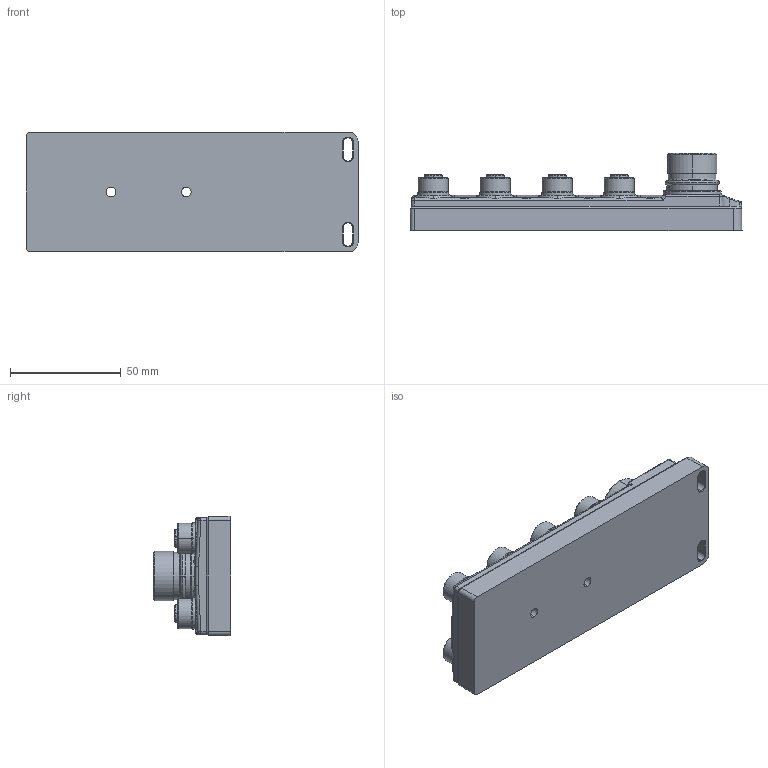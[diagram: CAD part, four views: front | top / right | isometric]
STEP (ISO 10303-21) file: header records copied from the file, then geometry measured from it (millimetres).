
FILE_DESCRIPTION (( 'STEP AP203' ), '1' );
FILE_NAME ('8MB12Z-CS-Top.step', '2017-07-13T19:47:25', ( '' ), ( '' ), 'SwSTEP 2.0', 'SolidWorks 2015', '' );
FILE_SCHEMA (( 'CONFIG_CONTROL_DESIGN' ));
Length unit declared in the file: millimetre
Products named in the file (2): 8MB12Z-CS-Top
Bounding box: 150 x 34.9 x 54 mm (x, y, z)
Volume: 133723.8 mm3; surface area: 35172.3 mm2
Topology: 1 solids, 14 shells, 1981 faces, 4902 edges, 2923 vertices
Faces by surface type: cylinder 767, plane 622, bspline 278, cone 171, torus 98, sphere 45
Entity records: 64882 total; most frequent: CARTESIAN_POINT 22340, ORIENTED_EDGE 9614, DIRECTION 8091, EDGE_CURVE 4807, VERTEX_POINT 2912, AXIS2_PLACEMENT_3D 2874, VECTOR 2343, LINE 2343
